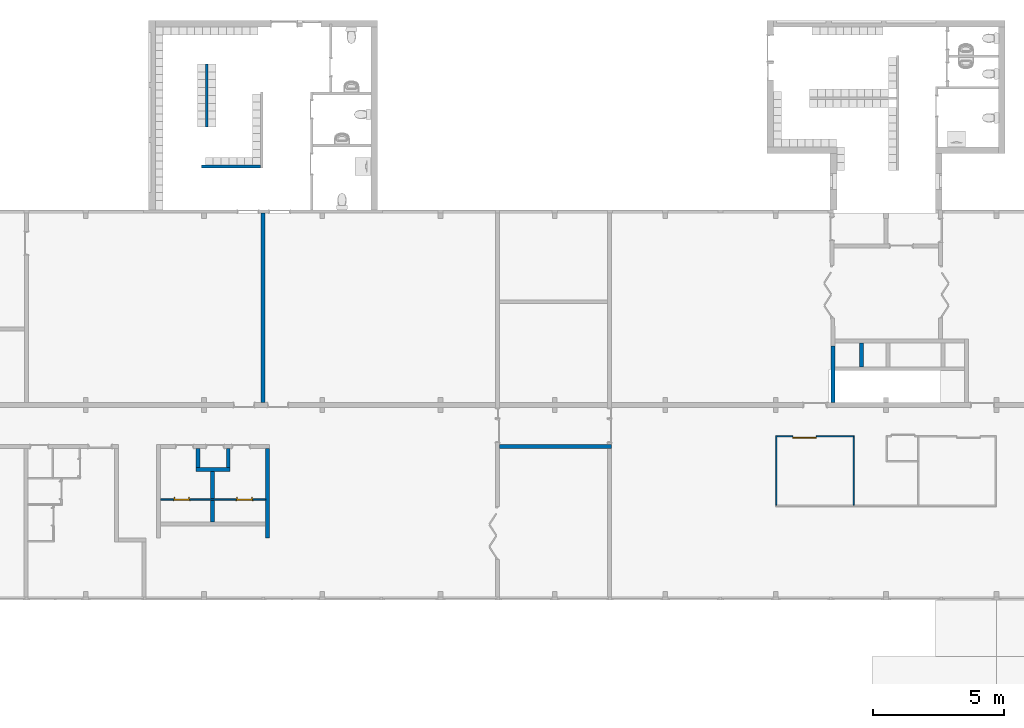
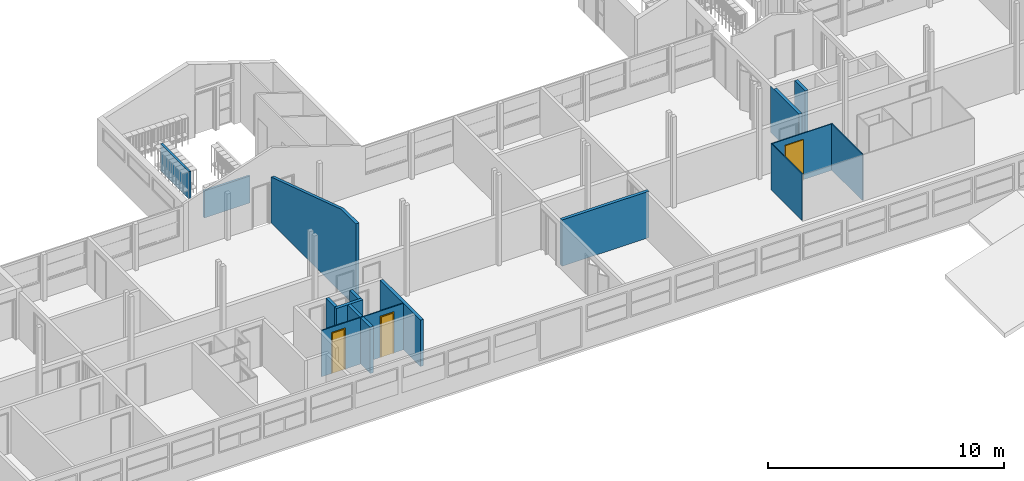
# One storey, part 30 of 48: 15 walls, 3 doors, 3 openings.
"""IFC2X3 building model written with IfcOpenShell, lengths in millimetres."""

from ifc_helpers import new_model, entity, si_unit, converted_unit, derived_unit, money_unit, direction, frame, origin_with_axes, place, context, subcontext, project, spatial, faceted_brep, material, type_object, element, fill, save


model = new_model("IFC2X3")

# Units and contexts
model_context = context("Model", 3, precision=0.01, world=origin_with_axes(), true_north=direction((0.0, 1.0)))
body_context = subcontext(model_context, "Body", "Model", "MODEL_VIEW")
ifc_project = project(units=[si_unit("LENGTHUNIT", "METRE", prefix="MILLI"), si_unit("AREAUNIT", "SQUARE_METRE"), si_unit("VOLUMEUNIT", "CUBIC_METRE"), converted_unit("PLANEANGLEUNIT", "DEGREE", entity("IfcPlaneAngleMeasure", 0.0174532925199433), si_unit("PLANEANGLEUNIT", "RADIAN"), dimensions=[0, 0, 0, 0, 0, 0, 0]), money_unit("USD"), converted_unit("TIMEUNIT", "Year", entity("IfcTimeMeasure", 31557600.0), si_unit("TIMEUNIT", "SECOND"), dimensions=[0, 0, 1, 0, 0, 0, 0]), si_unit("MASSUNIT", "GRAM", prefix="KILO"), si_unit("THERMODYNAMICTEMPERATUREUNIT", "DEGREE_CELSIUS"), si_unit("LUMINOUSINTENSITYUNIT", "LUMEN"), si_unit("ENERGYUNIT", "JOULE", prefix="MEGA"), derived_unit("THERMALCONDUCTANCEUNIT", [(si_unit("POWERUNIT", "WATT"), 1), (si_unit("LENGTHUNIT", "METRE"), -1), (si_unit("THERMODYNAMICTEMPERATUREUNIT", "KELVIN"), -1)]), derived_unit("SPECIFICHEATCAPACITYUNIT", [(si_unit("ENERGYUNIT", "JOULE"), 1), (si_unit("MASSUNIT", "GRAM", prefix="KILO"), -1), (si_unit("THERMODYNAMICTEMPERATUREUNIT", "KELVIN"), -1)]), derived_unit("MASSDENSITYUNIT", [(si_unit("MASSUNIT", "GRAM", prefix="KILO"), 1), (si_unit("VOLUMEUNIT", "CUBIC_METRE"), -1)])], contexts=[model_context])

# Site, building, storey
site_placement = place(None, origin_with_axes())
site = spatial("IfcSite", under=ifc_project, at=site_placement, Name="Site", CompositionType="ELEMENT")
building_placement = place(site_placement, origin_with_axes())
building = spatial("IfcBuilding", under=site, at=building_placement, Name="Building", CompositionType="ELEMENT")
storey_placement = place(building_placement, frame((0.0, 0.0, 3300.0), z_axis=(0.0, 0.0, 1.0), x_axis=(1.0, 0.0, 0.0)))
storey = spatial("IfcBuildingStorey", under=building, at=storey_placement, Name="1 ETG", CompositionType="ELEMENT", Elevation=3300.0)

# Walls
ifc_material = material(Name="GENERIC - INTERNAL FILLER")
wall_type_1 = type_object("IfcWallType", Name="GENERIC - INTERNAL FILLER 150", PredefinedType="NOTDEFINED")
wall_1_placement = place(storey_placement, frame((38499.99999999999, 12999.87497638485, 0.0), z_axis=(0.0, 0.0, 1.0), x_axis=(0.0, -1.0, 0.0)))
element("IfcWall", 1, at=wall_1_placement, inside=storey, type_object=wall_type_1, material=ifc_material, Name="SW - 001", context=body_context, shape_type="Brep", body=[
    faceted_brep([(150.0000000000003, -149.9999999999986, 2400.0), (3564.27109404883, -149.9999999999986, 2400.0), (3564.27109404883, 0.0, 2400.0), (150.0000000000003, 0.0, 2400.0), (150.0000000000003, -149.9999999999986, 0.0), (3564.27109404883, -149.9999999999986, 0.0), (3564.27109404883, 0.0, 0.0), (150.0000000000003, 0.0, 0.0)], [[[0, 1, 2, 3]], [[4, 5, 1, 0]], [[2, 1, 5, 6]], [[3, 2, 6, 7]], [[4, 0, 3, 7]], [[7, 6, 5, 4]]]),
])
wall_2_placement = place(storey_placement, frame((36400.0, 9899.87497638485, 0.0), z_axis=(0.0, 0.0, 1.0), x_axis=(0.0, 1.0, 0.0)))
element("IfcWall", 2, at=wall_2_placement, inside=storey, type_object=wall_type_1, material=ifc_material, Name="SW - 001", context=body_context, shape_type="Brep", body=[
    faceted_brep([(2060.113841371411, 149.9999999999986, 0.0), (2060.113841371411, 0.0, 0.0), (1022.853431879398, 0.0, 0.0), (1022.853431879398, 149.9999999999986, 0.0), (2060.113841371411, 149.9999999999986, 2400.0), (2060.113841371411, 0.0, 2400.0), (1022.853431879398, 0.0, 2400.0), (1022.853431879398, 149.9999999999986, 2400.0)], [[[0, 1, 2, 3]], [[1, 0, 4, 5]], [[1, 5, 6, 2]], [[7, 3, 2, 6]], [[4, 0, 3, 7]], [[5, 4, 7, 6]]]),
    faceted_brep([(972.8534318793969, 149.9999999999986, 0.0), (972.8534318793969, 0.0, 0.0), (150.0000000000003, 0.0, 0.0), (150.0000000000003, 149.9999999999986, 0.0), (972.8534318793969, 149.9999999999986, 2400.0), (972.8534318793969, 0.0, 2400.0), (150.0000000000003, 0.0, 2400.0), (150.0000000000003, 149.9999999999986, 2400.0)], [[[0, 1, 2, 3]], [[1, 0, 4, 5]], [[1, 5, 6, 2]], [[7, 3, 2, 6]], [[4, 0, 3, 7]], [[5, 4, 7, 6]]]),
])
wall_3_placement = place(storey_placement, frame((35699.99999999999, 11959.98881775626, 0.0), z_axis=(0.0, 0.0, 1.0), x_axis=(1.0, 0.0, 0.0)))
element("IfcWall", 3, at=wall_3_placement, inside=storey, type_object=wall_type_1, material=ifc_material, Name="SW - 001", context=body_context, shape_type="Brep", body=[
    faceted_brep([(1299.999999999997, 150.0000000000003, 0.0), (1299.999999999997, 0.0, 0.0), (0.0, 0.0, 0.0), (0.0, 150.0000000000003, 0.0), (1299.999999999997, 150.0000000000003, 2400.0), (1299.999999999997, 0.0, 2400.0), (0.0, 0.0, 2400.0), (0.0, 150.0000000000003, 2400.0)], [[[0, 1, 2, 3]], [[1, 0, 4, 5]], [[1, 5, 6, 2]], [[7, 3, 2, 6]], [[4, 0, 3, 7]], [[5, 4, 7, 6]]]),
])
wall_4_placement = place(storey_placement, frame((35699.99999999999, 11959.98881775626, 0.0), z_axis=(0.0, 0.0, 1.0), x_axis=(0.0, 1.0, 0.0)))
element("IfcWall", 4, at=wall_4_placement, inside=storey, type_object=wall_type_1, material=ifc_material, Name="SW - 001", context=body_context, shape_type="Brep", body=[
    faceted_brep([(889.88615862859, -149.9999999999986, 2400.0), (889.88615862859, 0.0, 2400.0), (150.0000000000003, 0.0, 2400.0), (150.0000000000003, -149.9999999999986, 2400.0), (889.88615862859, -149.9999999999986, 0.0), (889.88615862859, 0.0, 0.0), (150.0000000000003, 0.0, 0.0), (150.0000000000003, -149.9999999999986, 0.0)], [[[0, 1, 2, 3]], [[1, 0, 4, 5]], [[1, 5, 6, 2]], [[7, 3, 2, 6]], [[4, 0, 3, 7]], [[5, 4, 7, 6]]]),
])
wall_5_placement = place(storey_placement, frame((36999.99999999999, 11959.98881775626, 0.0), z_axis=(0.0, 0.0, 1.0), x_axis=(0.0, 1.0, 0.0)))
element("IfcWall", 5, at=wall_5_placement, inside=storey, type_object=wall_type_1, material=ifc_material, Name="SW - 001", context=body_context, shape_type="Brep", body=[
    faceted_brep([(889.88615862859, 149.9999999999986, 0.0), (889.88615862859, 0.0, 0.0), (150.0000000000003, 0.0, 0.0), (150.0000000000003, 149.9999999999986, 0.0), (889.88615862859, 149.9999999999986, 2400.0), (889.88615862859, 0.0, 2400.0), (150.0000000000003, 0.0, 2400.0), (150.0000000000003, 149.9999999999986, 2400.0)], [[[0, 1, 2, 3]], [[1, 0, 4, 5]], [[1, 5, 6, 2]], [[7, 3, 2, 6]], [[4, 0, 3, 7]], [[5, 4, 7, 6]]]),
])
wall_6_placement = place(storey_placement, frame((51500.00000000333, 12999.87497638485, 0.0), z_axis=(0.0, 0.0, 1.0), x_axis=(-1.0, 0.0, 0.0)))
element("IfcWall", 6, at=wall_6_placement, inside=storey, type_object=wall_type_1, material=ifc_material, Name="SW - 001", context=body_context, shape_type="Brep", body=[
    faceted_brep([(4249.999999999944, 150.0000000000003, 0.0), (4249.999999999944, 0.0, 0.0), (0.0, 0.0, 0.0), (0.0, 150.0000000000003, 0.0), (4249.999999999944, 150.0000000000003, 2400.0), (4249.999999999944, 0.0, 2400.0), (0.0, 0.0, 2400.0), (0.0, 150.0000000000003, 2400.0)], [[[0, 1, 2, 3]], [[1, 0, 4, 5]], [[1, 5, 6, 2]], [[7, 3, 2, 6]], [[4, 0, 3, 7]], [[5, 4, 7, 6]]]),
])
wall_7_placement = place(storey_placement, frame((38249.99999999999, 21799.93241991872, 0.0), z_axis=(0.0, 0.0, 1.0), x_axis=(0.0, -1.0, 0.0)))
element("IfcWall", 7, at=wall_7_placement, inside=storey, type_object=wall_type_1, material=ifc_material, Name="SW - 001", context=body_context, shape_type="Brep", body=[
    faceted_brep([(-0.0001252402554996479, -75.00000000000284, 0.0), (-0.0001252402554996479, -75.00000000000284, 2379.124312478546), (0.0001252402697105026, 75.00000000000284, 2379.124393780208), (0.0001252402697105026, 75.00000000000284, 0.0), (7199.93241991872, -75.00000000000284, 4313.400591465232), (5959.269644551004, -75.00000000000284, 4313.400591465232), (7200.057443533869, -75.00000000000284, 0.0), (7200.057443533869, -75.00000000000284, 2300.000000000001), (7199.93241991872, -75.00000000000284, 2300.000000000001), (5959.269644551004, 75.00000000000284, 4313.400591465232), (7199.93241991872, 75.00000000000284, 4313.400591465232), (7199.93241991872, 75.00000000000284, 2300.000000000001), (7200.057443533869, 75.00000000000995, 2300.000000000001), (7200.057443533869, 74.99999999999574, 0.0)], [[[0, 1, 2, 3]], [[4, 5, 1, 0, 6, 7, 8]], [[5, 9, 2, 1]], [[3, 2, 9, 10, 11, 12, 13]], [[0, 3, 13, 6]], [[10, 9, 5, 4]], [[6, 13, 12, 7]], [[8, 7, 12, 11]], [[4, 8, 11, 10]]]),
])
wall_8_placement = place(storey_placement, frame((60003.50288425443, 14599.87497638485, 0.0), z_axis=(0.0, 0.0, 1.0), x_axis=(0.0, 1.0, 0.0)))
element("IfcWall", 8, at=wall_8_placement, inside=storey, type_object=wall_type_1, material=ifc_material, Name="SW - 001", context=body_context, shape_type="Brep", body=[
    faceted_brep([(2399.336862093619, 150.0000000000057, 2400.000000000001), (0.1250236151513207, 149.9999999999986, 2400.0), (0.1250236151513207, 0.0, 2400.0), (2150.000000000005, 0.0, 2400.000000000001), (2150.000000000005, 147.7953605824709, 2400.000000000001), (0.0, 149.9999999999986, 2300.000000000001), (0.1250236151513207, 149.9999999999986, 2300.000000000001), (2399.336862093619, 150.0000000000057, 0.0), (0.0, 149.9999999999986, 0.0), (0.1250236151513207, 0.0, 2300.000000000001), (0.0, 0.0, 2300.000000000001), (0.0, 0.0, 0.0), (2150.000000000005, 0.0, 0.0), (2150.000000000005, 147.7953605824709, 0.0)], [[[0, 1, 2, 3, 4]], [[5, 6, 1, 0, 7, 8]], [[6, 9, 2, 1]], [[2, 9, 10, 11, 12, 3]], [[12, 13, 4, 3]], [[13, 7, 0, 4]], [[5, 10, 9, 6]], [[8, 7, 13, 12, 11]], [[11, 10, 5, 8]]]),
])
wall_9_placement = place(storey_placement, frame((60940.20905219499, 15799.87497638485, 0.0), z_axis=(0.0, 0.0, 1.0), x_axis=(0.0, 1.0, 0.0)))
element("IfcWall", 9, at=wall_9_placement, inside=storey, type_object=wall_type_1, material=ifc_material, Name="SW - 001", context=body_context, shape_type="Brep", body=[
    faceted_brep([(1050.000000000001, -149.9999999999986, 2400.0), (1050.000000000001, 0.0, 2400.0), (150.0000000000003, 0.0, 2400.0), (150.0000000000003, -149.9999999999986, 2400.0), (1050.000000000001, -149.9999999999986, 0.0), (1050.000000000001, 0.0, 0.0), (150.0000000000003, 0.0, 0.0), (150.0000000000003, -149.9999999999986, 0.0)], [[[0, 1, 2, 3]], [[1, 0, 4, 5]], [[1, 5, 6, 2]], [[7, 3, 2, 6]], [[4, 0, 3, 7]], [[5, 4, 7, 6]]]),
])
wall_type_2 = type_object("IfcWallType", Name="GENERIC - INTERNAL FILLER 100", PredefinedType="NOTDEFINED")
wall_10_placement = place(storey_placement, frame((36100.01708667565, 27474.94046485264, 0.0), z_axis=(0.0, 0.0, 1.0), x_axis=(0.0, -1.0, 0.0)))
element("IfcWall", 10, at=wall_10_placement, inside=storey, type_object=wall_type_2, material=ifc_material, Name="SW - 001", context=body_context, shape_type="Brep", body=[
    faceted_brep([(0.0, -49.99999999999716, 1400.0), (2399.999999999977, -49.99999999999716, 1400.0), (2399.999999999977, 49.99999999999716, 1400.0), (0.0, 49.99999999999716, 1400.0), (0.0, -49.99999999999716, 0.0), (2399.999999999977, -49.99999999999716, 0.0), (2399.999999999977, 49.99999999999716, 0.0), (0.0, 49.99999999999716, 0.0)], [[[0, 1, 2, 3]], [[4, 5, 1, 0]], [[2, 1, 5, 6]], [[3, 2, 6, 7]], [[4, 0, 3, 7]], [[7, 6, 5, 4]]]),
])
wall_11_placement = place(storey_placement, frame((38250.0176446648, 23519.93971872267, 0.0), z_axis=(0.0, 0.0, 1.0), x_axis=(-1.0, 0.0, 0.0)))
element("IfcWall", 11, at=wall_11_placement, inside=storey, type_object=wall_type_2, material=ifc_material, Name="SW - 001", context=body_context, shape_type="Brep", body=[
    faceted_brep([(100.0000000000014, 0.0, 0.0), (2340.017644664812, 0.0, 0.0), (2340.017644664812, -100.0000000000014, 0.0), (100.0000136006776, -100.0000000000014, 0.0), (100.0000000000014, 0.0, 1400.0), (2340.017644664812, 0.0, 1400.0), (2340.017644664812, -100.0000000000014, 1400.0), (100.0000136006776, -100.0000000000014, 1400.0)], [[[0, 1, 2, 3]], [[4, 5, 1, 0]], [[2, 1, 5, 6]], [[3, 2, 6, 7]], [[4, 0, 3, 7]], [[7, 6, 5, 4]]]),
])

# Wall, openings, doors
wall_type_3 = type_object("IfcWallType", Name="GENERIC - INTERNAL FILLER 50", PredefinedType="NOTDEFINED")
wall_12_placement = place(storey_placement, frame((34199.99999999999, 10872.72840826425, 0.0), z_axis=(0.0, 0.0, 1.0), x_axis=(1.0, 0.0, 0.0)))
wall_12 = element("IfcWall", 12, at=wall_12_placement, inside=storey, type_object=wall_type_3, material=ifc_material, Name="SW - 001", context=body_context, shape_type="Brep", body=[
    faceted_brep([(3044.250017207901, 50.00000000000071, 2100.0), (3044.250017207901, 50.00000000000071, 0.0), (1257.361433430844, 50.00000000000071, 0.0), (1257.361433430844, 50.00000000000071, 2100.0), (657.3614334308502, 50.00000000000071, 2100.0), (657.3614334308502, 50.00000000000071, 0.0), (149.9999999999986, 50.00000000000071, 0.0), (149.9999999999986, 50.00000000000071, 2400.0), (4149.999999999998, 50.00000000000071, 2400.0), (4149.999999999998, 50.00000000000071, 0.0), (3644.250017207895, 50.00000000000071, 0.0), (3644.250017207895, 50.00000000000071, 2100.0), (3044.250017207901, 0.0, 2100.0), (3044.250017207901, 0.0, 0.0), (1257.361433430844, 0.0, 0.0), (1257.361433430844, 0.0, 2100.0), (657.3614334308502, 0.0, 2100.0), (657.3614334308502, 0.0, 0.0), (149.9999999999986, 0.0, 0.0), (149.9999999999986, 0.0, 2400.0), (4149.999999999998, 0.0, 2400.0), (4149.999999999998, 0.0, 0.0), (3644.250017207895, 0.0, 0.0), (3644.250017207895, 0.0, 2100.0)], [[[0, 1, 2, 3, 4, 5, 6, 7, 8, 9, 10, 11]], [[1, 0, 12, 13]], [[1, 13, 14, 2]], [[2, 14, 15, 3]], [[3, 15, 16, 4]], [[4, 16, 17, 5]], [[17, 18, 6, 5]], [[18, 19, 7, 6]], [[7, 19, 20, 8]], [[8, 20, 21, 9]], [[22, 10, 9, 21]], [[11, 10, 22, 23]], [[0, 11, 23, 12]], [[23, 22, 21, 20, 19, 18, 17, 16, 15, 14, 13, 12]]]),
])
opening_1_placement = place(wall_12_placement, frame((957.3614334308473, 0.0, 0.0), z_axis=(0.0, 0.0, 1.0), x_axis=(1.0, 0.0, 0.0)))
opening_1 = element("IfcOpeningElement", 13, at=opening_1_placement, cuts=wall_12, Name="DOO - 002", context=body_context, shape_type="Brep", body=[
    faceted_brep([(-299.9999999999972, 0.0, 2100.0), (299.9999999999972, 0.0, 2100.0), (299.9999999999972, 50.00000000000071, 2100.0), (-299.9999999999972, 50.00000000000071, 2100.0), (299.9999999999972, 0.0, 0.0), (-299.9999999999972, 0.0, 0.0), (-337.0000000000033, 0.0, 0.0), (-337.0000000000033, 0.0, 2137.0), (337.0000000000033, 0.0, 2137.0), (337.0000000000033, 0.0, 0.0), (299.9999999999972, 50.00000000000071, 0.0), (337.0000000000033, 50.00000000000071, 0.0), (337.0000000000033, 50.00000000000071, 2137.0), (-337.0000000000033, 50.00000000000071, 2137.0), (-337.0000000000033, 50.00000000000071, 0.0), (-299.9999999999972, 50.00000000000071, 0.0), (-299.9999999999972, -0.9999999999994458, 0.0), (-337.0000000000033, -0.9999999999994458, 0.0), (-337.0000000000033, -0.9999999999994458, 2137.0), (337.0000000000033, -0.9999999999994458, 2137.0), (337.0000000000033, -0.9999999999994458, 0.0), (299.9999999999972, -0.9999999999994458, 0.0), (-299.9999999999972, 51.00000000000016, 0.0), (299.9999999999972, 51.00000000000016, 0.0), (337.0000000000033, 51.00000000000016, 0.0), (337.0000000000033, 51.00000000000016, 2137.0), (-337.0000000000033, 51.00000000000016, 2137.0), (-337.0000000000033, 51.00000000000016, 0.0), (-299.9999999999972, -0.9999999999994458, 2100.0), (299.9999999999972, -0.9999999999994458, 2100.0)], [[[0, 1, 2, 3]], [[4, 1, 0, 5, 6, 7, 8, 9]], [[1, 4, 10, 2]], [[3, 2, 10, 11, 12, 13, 14, 15]], [[5, 0, 3, 15]], [[5, 16, 17, 6]], [[7, 6, 17, 18]], [[8, 7, 18, 19]], [[9, 8, 19, 20]], [[21, 4, 9, 20]], [[16, 5, 15, 22, 23, 10, 4, 21]], [[10, 23, 24, 11]], [[12, 11, 24, 25]], [[13, 12, 25, 26]], [[14, 13, 26, 27]], [[22, 15, 14, 27]], [[28, 29, 21, 20, 19, 18, 17, 16]], [[23, 22, 27, 26, 25, 24]], [[28, 16, 21, 29]]]),
])
opening_2_placement = place(wall_12_placement, frame((3344.250017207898, 0.0, 0.0), z_axis=(0.0, 0.0, 1.0), x_axis=(1.0, 0.0, 0.0)))
opening_2 = element("IfcOpeningElement", 14, at=opening_2_placement, cuts=wall_12, Name="DOO - 002", context=body_context, shape_type="Brep", body=[
    faceted_brep([(-299.9999999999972, 0.0, 2100.0), (299.9999999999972, 0.0, 2100.0), (299.9999999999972, 50.00000000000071, 2100.0), (-299.9999999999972, 50.00000000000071, 2100.0), (299.9999999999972, 0.0, 0.0), (-299.9999999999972, 0.0, 0.0), (-337.0000000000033, 0.0, 0.0), (-337.0000000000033, 0.0, 2137.0), (337.0000000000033, 0.0, 2137.0), (337.0000000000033, 0.0, 0.0), (299.9999999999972, 50.00000000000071, 0.0), (337.0000000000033, 50.00000000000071, 0.0), (337.0000000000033, 50.00000000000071, 2137.0), (-337.0000000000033, 50.00000000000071, 2137.0), (-337.0000000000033, 50.00000000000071, 0.0), (-299.9999999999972, 50.00000000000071, 0.0), (-299.9999999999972, -0.9999999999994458, 0.0), (-337.0000000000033, -0.9999999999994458, 0.0), (-337.0000000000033, -0.9999999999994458, 2137.0), (337.0000000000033, -0.9999999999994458, 2137.0), (337.0000000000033, -0.9999999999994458, 0.0), (299.9999999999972, -0.9999999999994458, 0.0), (-299.9999999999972, 51.00000000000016, 0.0), (299.9999999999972, 51.00000000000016, 0.0), (337.0000000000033, 51.00000000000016, 0.0), (337.0000000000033, 51.00000000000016, 2137.0), (-337.0000000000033, 51.00000000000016, 2137.0), (-337.0000000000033, 51.00000000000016, 0.0), (-299.9999999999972, -0.9999999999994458, 2100.0), (299.9999999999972, -0.9999999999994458, 2100.0)], [[[0, 1, 2, 3]], [[4, 1, 0, 5, 6, 7, 8, 9]], [[1, 4, 10, 2]], [[3, 2, 10, 11, 12, 13, 14, 15]], [[5, 0, 3, 15]], [[5, 16, 17, 6]], [[7, 6, 17, 18]], [[8, 7, 18, 19]], [[9, 8, 19, 20]], [[21, 4, 9, 20]], [[16, 5, 15, 22, 23, 10, 4, 21]], [[10, 23, 24, 11]], [[12, 11, 24, 25]], [[13, 12, 25, 26]], [[14, 13, 26, 27]], [[22, 15, 14, 27]], [[28, 29, 21, 20, 19, 18, 17, 16]], [[23, 22, 27, 26, 25, 24]], [[28, 16, 21, 29]]]),
])
door_style_1 = type_object("IfcDoorStyle", Name="Dør", ConstructionType="NOTDEFINED", OperationType="SINGLE_SWING_RIGHT", ParameterTakesPrecedence=False, Sizeable=False)
door_1_placement = place(opening_1_placement, frame((299.9999999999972, 0.0, 0.0), z_axis=(0.0, 0.0, 1.0), x_axis=(-1.0, 0.0, 0.0)))
door_1 = element("IfcDoor", 15, at=door_1_placement, inside=storey, type_object=door_style_1, Name="DOO - 002", ObjectType="DOOR", OverallHeight=2100.0, OverallWidth=600.0, context=body_context, shape_type="Brep", body=[
    faceted_brep([(-37.00000000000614, -69.00000000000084, 0.0), (-37.00000000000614, -50.00000000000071, 0.0), (12.99999999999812, -50.00000000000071, 0.0), (12.99999999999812, -69.00000000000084, 0.0), (-37.00000000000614, -69.00000000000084, 2137.0), (-37.00000000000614, -50.00000000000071, 2137.0), (12.99999999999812, -50.00000000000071, 2087.0), (12.99999999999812, -69.00000000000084, 2087.0)], [[[0, 1, 2, 3]], [[4, 5, 1, 0]], [[1, 5, 6, 2]], [[3, 2, 6, 7]], [[0, 3, 7, 4]], [[7, 6, 5, 4]]]),
    faceted_brep([(637.0000000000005, -69.00000000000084, 2137.0), (637.0000000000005, -50.00000000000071, 2137.0), (586.9999999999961, -50.00000000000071, 2087.0), (586.9999999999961, -69.00000000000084, 2087.0), (637.0000000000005, -69.00000000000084, 0.0), (637.0000000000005, -50.00000000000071, 0.0), (586.9999999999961, -50.00000000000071, 0.0), (586.9999999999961, -69.00000000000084, 0.0)], [[[0, 1, 2, 3]], [[4, 5, 1, 0]], [[1, 5, 6, 2]], [[3, 2, 6, 7]], [[0, 3, 7, 4]], [[7, 6, 5, 4]]]),
    faceted_brep([(-37.00000000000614, -69.00000000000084, 2137.0), (-37.00000000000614, -50.00000000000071, 2137.0), (12.99999999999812, -50.00000000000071, 2087.0), (12.99999999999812, -69.00000000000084, 2087.0), (637.0000000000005, -69.00000000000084, 2137.0), (637.0000000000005, -50.00000000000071, 2137.0), (586.9999999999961, -50.00000000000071, 2087.0), (586.9999999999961, -69.00000000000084, 2087.0)], [[[0, 1, 2, 3]], [[4, 5, 1, 0]], [[1, 5, 6, 2]], [[3, 2, 6, 7]], [[0, 3, 7, 4]], [[7, 6, 5, 4]]]),
    faceted_brep([(-37.00000000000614, 19.00000000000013, 0.0), (12.99999999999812, 19.00000000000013, 0.0), (12.99999999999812, 0.0, 0.0), (-37.00000000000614, 0.0, 0.0), (-37.00000000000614, 19.00000000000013, 2137.0), (12.99999999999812, 19.00000000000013, 2087.0), (12.99999999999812, 0.0, 2087.0), (-37.00000000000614, 0.0, 2137.0)], [[[0, 1, 2, 3]], [[0, 4, 5, 1]], [[1, 5, 6, 2]], [[3, 2, 6, 7]], [[4, 0, 3, 7]], [[5, 4, 7, 6]]]),
    faceted_brep([(637.0000000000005, 19.00000000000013, 2137.0), (586.9999999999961, 19.00000000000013, 2087.0), (586.9999999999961, 0.0, 2087.0), (637.0000000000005, 0.0, 2137.0), (637.0000000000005, 19.00000000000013, 0.0), (586.9999999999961, 19.00000000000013, 0.0), (586.9999999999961, 0.0, 0.0), (637.0000000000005, 0.0, 0.0)], [[[0, 1, 2, 3]], [[0, 4, 5, 1]], [[1, 5, 6, 2]], [[3, 2, 6, 7]], [[4, 0, 3, 7]], [[5, 4, 7, 6]]]),
    faceted_brep([(-37.00000000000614, 19.00000000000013, 2137.0), (12.99999999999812, 19.00000000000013, 2087.0), (12.99999999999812, 0.0, 2087.0), (-37.00000000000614, 0.0, 2137.0), (637.0000000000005, 19.00000000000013, 2137.0), (586.9999999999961, 19.00000000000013, 2087.0), (586.9999999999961, 0.0, 2087.0), (637.0000000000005, 0.0, 2137.0)], [[[0, 1, 2, 3]], [[0, 4, 5, 1]], [[1, 5, 6, 2]], [[3, 2, 6, 7]], [[4, 0, 3, 7]], [[5, 4, 7, 6]]]),
    faceted_brep([(0.0, 0.0, 0.0), (39.99999999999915, 0.0, 0.0), (39.99999999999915, -115.0000000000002, 0.0), (0.0, -115.0000000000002, 0.0), (0.0, 0.0, 2060.0), (39.99999999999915, 0.0, 2060.0), (39.99999999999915, -115.0000000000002, 2060.0), (0.0, -115.0000000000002, 2060.0)], [[[0, 1, 2, 3]], [[0, 4, 5, 1]], [[1, 5, 6, 2]], [[3, 2, 6, 7]], [[4, 0, 3, 7]], [[5, 4, 7, 6]]]),
    faceted_brep([(599.9999999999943, 0.0, 0.0), (599.9999999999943, 0.0, 2060.0), (599.9999999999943, -115.0000000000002, 2060.0), (599.9999999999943, -115.0000000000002, 0.0), (559.9999999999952, 0.0, 0.0), (559.9999999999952, 0.0, 2060.0), (559.9999999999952, -115.0000000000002, 2060.0), (559.9999999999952, -115.0000000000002, 0.0)], [[[0, 1, 2, 3]], [[0, 4, 5, 1]], [[1, 5, 6, 2]], [[3, 2, 6, 7]], [[4, 0, 3, 7]], [[5, 4, 7, 6]]]),
    faceted_brep([(0.0, 0.0, 2100.0), (0.0, 0.0, 2060.0), (0.0, -115.0000000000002, 2060.0), (0.0, -115.0000000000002, 2100.0), (599.9999999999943, 0.0, 2100.0), (599.9999999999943, 0.0, 2060.0), (559.9999999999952, 0.0, 2060.0), (39.99999999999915, 0.0, 2060.0), (39.99999999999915, -115.0000000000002, 2060.0), (559.9999999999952, -115.0000000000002, 2060.0), (599.9999999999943, -115.0000000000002, 2060.0), (599.9999999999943, -115.0000000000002, 2100.0)], [[[0, 1, 2, 3]], [[0, 4, 5, 6, 7, 1]], [[1, 7, 8, 2]], [[3, 2, 8, 9, 10, 11]], [[4, 0, 3, 11]], [[5, 4, 11, 10]], [[6, 5, 10, 9]], [[7, 6, 9, 8]]]),
    faceted_brep([(559.9999999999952, 0.0, 0.0), (559.9999999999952, -39.99999999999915, 0.0), (39.99999999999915, -39.99999999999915, 0.0), (39.99999999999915, 0.0, 0.0), (559.9999999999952, 0.0, 2060.0), (559.9999999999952, -40.00000000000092, 2060.0), (39.99999999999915, -40.00000000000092, 2060.0), (39.99999999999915, 0.0, 2060.0)], [[[0, 1, 2, 3]], [[4, 5, 1, 0]], [[1, 5, 6, 2]], [[3, 2, 6, 7]], [[0, 3, 7, 4]], [[7, 6, 5, 4]]]),
])
fill(opening_1, door_1)
door_style_2 = type_object("IfcDoorStyle", Name="Dør", ConstructionType="NOTDEFINED", OperationType="SINGLE_SWING_LEFT", ParameterTakesPrecedence=False, Sizeable=False)
door_2_placement = place(opening_2_placement, frame((299.9999999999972, 0.0, 0.0), z_axis=(0.0, 0.0, 1.0), x_axis=(-1.0, 0.0, 0.0)))
door_2 = element("IfcDoor", 16, at=door_2_placement, inside=storey, type_object=door_style_2, Name="DOO - 002", ObjectType="DOOR", OverallHeight=2100.0, OverallWidth=600.0, context=body_context, shape_type="Brep", body=[
    faceted_brep([(637.0000000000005, -69.00000000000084, 0.0), (586.9999999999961, -69.00000000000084, 0.0), (586.9999999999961, -50.00000000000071, 0.0), (637.0000000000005, -50.00000000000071, 0.0), (637.0000000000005, -69.00000000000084, 2137.0), (586.9999999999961, -69.00000000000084, 2087.0), (586.9999999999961, -50.00000000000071, 2087.0), (637.0000000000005, -50.00000000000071, 2137.0)], [[[0, 1, 2, 3]], [[0, 4, 5, 1]], [[1, 5, 6, 2]], [[3, 2, 6, 7]], [[4, 0, 3, 7]], [[5, 4, 7, 6]]]),
    faceted_brep([(-37.00000000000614, -69.00000000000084, 2137.0), (12.99999999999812, -69.00000000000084, 2087.0), (12.99999999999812, -50.00000000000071, 2087.0), (-37.00000000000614, -50.00000000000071, 2137.0), (-37.00000000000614, -69.00000000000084, 0.0), (12.99999999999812, -69.00000000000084, 0.0), (12.99999999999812, -50.00000000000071, 0.0), (-37.00000000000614, -50.00000000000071, 0.0)], [[[0, 1, 2, 3]], [[0, 4, 5, 1]], [[1, 5, 6, 2]], [[3, 2, 6, 7]], [[4, 0, 3, 7]], [[5, 4, 7, 6]]]),
    faceted_brep([(637.0000000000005, -69.00000000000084, 2137.0), (586.9999999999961, -69.00000000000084, 2087.0), (586.9999999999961, -50.00000000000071, 2087.0), (637.0000000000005, -50.00000000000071, 2137.0), (-37.00000000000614, -69.00000000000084, 2137.0), (12.99999999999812, -69.00000000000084, 2087.0), (12.99999999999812, -50.00000000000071, 2087.0), (-37.00000000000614, -50.00000000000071, 2137.0)], [[[0, 1, 2, 3]], [[0, 4, 5, 1]], [[1, 5, 6, 2]], [[3, 2, 6, 7]], [[4, 0, 3, 7]], [[5, 4, 7, 6]]]),
    faceted_brep([(637.0000000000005, 19.00000000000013, 0.0), (637.0000000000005, 0.0, 0.0), (586.9999999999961, 0.0, 0.0), (586.9999999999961, 19.00000000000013, 0.0), (637.0000000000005, 19.00000000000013, 2137.0), (637.0000000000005, 0.0, 2137.0), (586.9999999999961, 0.0, 2087.0), (586.9999999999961, 19.00000000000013, 2087.0)], [[[0, 1, 2, 3]], [[4, 5, 1, 0]], [[1, 5, 6, 2]], [[3, 2, 6, 7]], [[0, 3, 7, 4]], [[7, 6, 5, 4]]]),
    faceted_brep([(-37.00000000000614, 19.00000000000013, 2137.0), (-37.00000000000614, 0.0, 2137.0), (12.99999999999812, 0.0, 2087.0), (12.99999999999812, 19.00000000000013, 2087.0), (-37.00000000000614, 19.00000000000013, 0.0), (-37.00000000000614, 0.0, 0.0), (12.99999999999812, 0.0, 0.0), (12.99999999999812, 19.00000000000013, 0.0)], [[[0, 1, 2, 3]], [[4, 5, 1, 0]], [[1, 5, 6, 2]], [[3, 2, 6, 7]], [[0, 3, 7, 4]], [[7, 6, 5, 4]]]),
    faceted_brep([(637.0000000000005, 19.00000000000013, 2137.0), (637.0000000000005, 0.0, 2137.0), (586.9999999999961, 0.0, 2087.0), (586.9999999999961, 19.00000000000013, 2087.0), (-37.00000000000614, 19.00000000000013, 2137.0), (-37.00000000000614, 0.0, 2137.0), (12.99999999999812, 0.0, 2087.0), (12.99999999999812, 19.00000000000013, 2087.0)], [[[0, 1, 2, 3]], [[4, 5, 1, 0]], [[1, 5, 6, 2]], [[3, 2, 6, 7]], [[0, 3, 7, 4]], [[7, 6, 5, 4]]]),
    faceted_brep([(599.9999999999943, 0.0, 0.0), (599.9999999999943, -115.0000000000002, 0.0), (559.9999999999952, -115.0000000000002, 0.0), (559.9999999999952, 0.0, 0.0), (599.9999999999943, 0.0, 2060.0), (599.9999999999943, -115.0000000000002, 2060.0), (559.9999999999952, -115.0000000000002, 2060.0), (559.9999999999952, 0.0, 2060.0)], [[[0, 1, 2, 3]], [[4, 5, 1, 0]], [[1, 5, 6, 2]], [[3, 2, 6, 7]], [[0, 3, 7, 4]], [[7, 6, 5, 4]]]),
    faceted_brep([(0.0, 0.0, 0.0), (0.0, -115.0000000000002, 0.0), (0.0, -115.0000000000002, 2060.0), (0.0, 0.0, 2060.0), (39.99999999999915, 0.0, 0.0), (39.99999999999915, -115.0000000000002, 0.0), (39.99999999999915, -115.0000000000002, 2060.0), (39.99999999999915, 0.0, 2060.0)], [[[0, 1, 2, 3]], [[4, 5, 1, 0]], [[1, 5, 6, 2]], [[3, 2, 6, 7]], [[0, 3, 7, 4]], [[7, 6, 5, 4]]]),
    faceted_brep([(599.9999999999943, 0.0, 2100.0), (599.9999999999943, -115.0000000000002, 2100.0), (599.9999999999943, -115.0000000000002, 2060.0), (599.9999999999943, 0.0, 2060.0), (0.0, 0.0, 2100.0), (0.0, -115.0000000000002, 2100.0), (0.0, -115.0000000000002, 2060.0), (39.99999999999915, -115.0000000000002, 2060.0), (559.9999999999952, -115.0000000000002, 2060.0), (559.9999999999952, 0.0, 2060.0), (39.99999999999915, 0.0, 2060.0), (0.0, 0.0, 2060.0)], [[[0, 1, 2, 3]], [[4, 5, 1, 0]], [[1, 5, 6, 7, 8, 2]], [[3, 2, 8, 9]], [[0, 3, 9, 10, 11, 4]], [[11, 6, 5, 4]], [[10, 7, 6, 11]], [[9, 8, 7, 10]]]),
    faceted_brep([(39.99999999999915, 0.0, 0.0), (559.9999999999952, 0.0, 0.0), (559.9999999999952, -39.99999999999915, 0.0), (39.99999999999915, -39.99999999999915, 0.0), (39.99999999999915, 0.0, 2060.0), (559.9999999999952, 0.0, 2060.0), (559.9999999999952, -40.00000000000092, 2060.0), (39.99999999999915, -40.00000000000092, 2060.0)], [[[0, 1, 2, 3]], [[0, 4, 5, 1]], [[1, 5, 6, 2]], [[3, 2, 6, 7]], [[4, 0, 3, 7]], [[5, 4, 7, 6]]]),
])
fill(opening_2, door_2)

# Wall
wall_13_placement = place(storey_placement, frame((57749.99999999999, 10633.66421670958, 0.0), z_axis=(0.0, 0.0, 1.0), x_axis=(0.0, 1.0, 0.0)))
element("IfcWall", 17, at=wall_13_placement, inside=storey, type_object=wall_type_3, material=ifc_material, Name="SW - 001", context=body_context, shape_type="Brep", body=[
    faceted_brep([(2699.999999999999, -49.99999999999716, 2400.0), (2699.999999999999, 0.0, 2400.0), (50.00000000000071, 0.0, 2400.0), (50.00000000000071, -49.99999999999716, 2400.0), (2699.999999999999, -49.99999999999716, 0.0), (2699.999999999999, 0.0, 0.0), (50.00000000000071, 0.0, 0.0), (50.00000000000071, -49.99999999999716, 0.0)], [[[0, 1, 2, 3]], [[1, 0, 4, 5]], [[1, 5, 6, 2]], [[7, 3, 2, 6]], [[4, 0, 3, 7]], [[5, 4, 7, 6]]]),
])

# Wall, opening, door
wall_14_placement = place(storey_placement, frame((57749.99999999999, 13333.66421670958, 0.0), z_axis=(0.0, 0.0, 1.0), x_axis=(1.0, 0.0, 0.0)))
wall_14 = element("IfcWall", 18, at=wall_14_placement, inside=storey, type_object=wall_type_3, material=ifc_material, Name="SW - 001", context=body_context, shape_type="Brep", body=[
    faceted_brep([(649.577832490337, 0.0, 2100.0), (649.577832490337, 0.0, 0.0), (49.99999999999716, 0.0, 0.0), (49.99999999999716, 0.0, 2400.0), (3000.0, 0.0, 2400.0), (3000.0, 0.0, 0.0), (1549.577832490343, 0.0, 0.0), (1549.577832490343, 0.0, 2100.0), (649.577832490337, -49.99999999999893, 2100.0), (649.577832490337, -50.00000000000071, 0.0), (49.99999999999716, -50.00000000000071, 0.0), (49.99999999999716, -50.00000000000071, 2400.0), (3000.0, -49.99999999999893, 2400.0), (3000.0, -49.99999999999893, 0.0), (1549.577832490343, -49.99999999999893, 0.0), (1549.577832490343, -49.99999999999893, 2100.0)], [[[0, 1, 2, 3, 4, 5, 6, 7]], [[1, 0, 8, 9]], [[1, 9, 10, 2]], [[11, 3, 2, 10]], [[4, 3, 11, 12]], [[12, 13, 5, 4]], [[14, 6, 5, 13]], [[7, 6, 14, 15]], [[0, 7, 15, 8]], [[15, 14, 13, 12, 11, 10, 9, 8]]]),
])
opening_3_placement = place(wall_14_placement, frame((1099.57783249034, 0.0, 0.0), z_axis=(0.0, 0.0, 1.0), x_axis=(1.0, 0.0, 0.0)))
opening_3 = element("IfcOpeningElement", 19, at=opening_3_placement, cuts=wall_14, Name="DOO - 002", context=body_context, shape_type="Brep", body=[
    faceted_brep([(450.0000000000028, 0.9999999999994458, 2100.0), (450.0000000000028, 0.9999999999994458, 0.0), (-450.0000000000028, 0.9999999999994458, 0.0), (-450.0000000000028, 0.9999999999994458, 2100.0), (450.0000000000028, -51.00000000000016, 2100.0), (450.0000000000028, -51.00000000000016, 0.0), (-450.0000000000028, -51.00000000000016, 0.0), (-450.0000000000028, -51.00000000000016, 2100.0)], [[[0, 1, 2, 3]], [[4, 5, 1, 0]], [[5, 6, 2, 1]], [[6, 7, 3, 2]], [[7, 4, 0, 3]], [[6, 5, 4, 7]]]),
])
door_style_3 = type_object("IfcDoorStyle", Name="Skyvedør utenpåliggende", ConstructionType="NOTDEFINED", OperationType="SLIDING_TO_LEFT", ParameterTakesPrecedence=False, Sizeable=False)
door_3_placement = place(opening_3_placement, frame((450.0000000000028, 0.0, 0.0), z_axis=(0.0, 0.0, 1.0), x_axis=(-1.0, 0.0, 0.0)))
door_3 = element("IfcDoor", 20, at=door_3_placement, inside=storey, type_object=door_style_3, Name="DOO - 002", ObjectType="DOOR", OverallHeight=2100.0, OverallWidth=900.0, context=body_context, shape_type="Brep", body=[
    faceted_brep([(0.0, 95.00000000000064, 0.0), (900.0000000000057, 95.00000000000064, 0.0), (900.0000000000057, 55.00000000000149, 0.0), (0.0, 55.00000000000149, 0.0), (0.0, 95.00000000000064, 2100.0), (900.0000000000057, 95.00000000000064, 2100.0), (900.0000000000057, 54.99999999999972, 2100.0), (0.0, 54.99999999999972, 2100.0)], [[[0, 1, 2, 3]], [[0, 4, 5, 1]], [[1, 5, 6, 2]], [[3, 2, 6, 7]], [[4, 0, 3, 7]], [[5, 4, 7, 6]]]),
])
fill(opening_3, door_3)

# Wall
wall_15_placement = place(storey_placement, frame((60749.99999999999, 13333.66421670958, 0.0), z_axis=(0.0, 0.0, 1.0), x_axis=(0.0, -1.0, 0.0)))
element("IfcWall", 21, at=wall_15_placement, inside=storey, type_object=wall_type_3, material=ifc_material, Name="SW - 001", context=body_context, shape_type="Brep", body=[
    faceted_brep([(2649.999999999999, -49.99999999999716, 2400.0), (2649.999999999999, 0.0, 2400.0), (50.00000000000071, 0.0, 2400.0), (50.00000000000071, -49.99999999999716, 2400.0), (2649.999999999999, -49.99999999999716, 0.0), (2649.999999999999, 0.0, 0.0), (50.00000000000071, 0.0, 0.0), (50.00000000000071, -49.99999999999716, 0.0)], [[[0, 1, 2, 3]], [[1, 0, 4, 5]], [[1, 5, 6, 2]], [[7, 3, 2, 6]], [[4, 0, 3, 7]], [[5, 4, 7, 6]]]),
])

save(model, "model.ifc")
